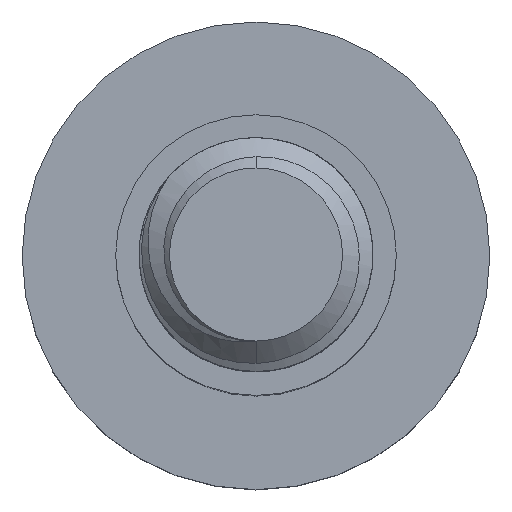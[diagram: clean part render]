
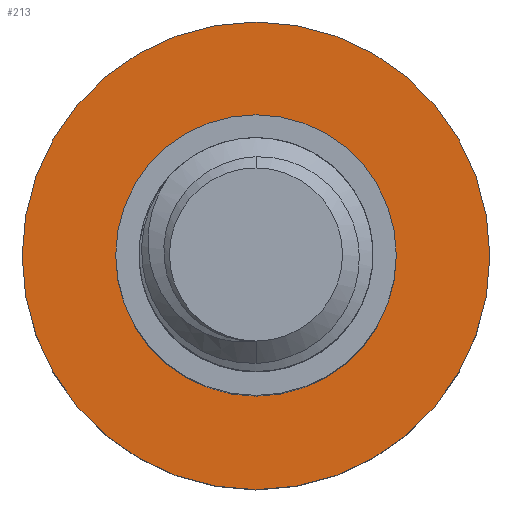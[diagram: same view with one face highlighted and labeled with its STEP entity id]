
A CAD part, top view. The second image highlights one B-rep face of the part: STEP entity #213.
In plain terms, the highlighted planar face has unit normal (0, 0, 1).
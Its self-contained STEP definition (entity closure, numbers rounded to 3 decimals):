
#101 = CIRCLE ( 'NONE', #1266, 10. ) ;
#213 = ADVANCED_FACE ( 'NONE', ( #1810, #1829 ), #2102, .F. ) ;
#241 = CARTESIAN_POINT ( 'NONE',  ( 0., 0., -18. ) ) ;
#508 = DIRECTION ( 'NONE',  ( 0., 0., -1. ) ) ;
#874 = ORIENTED_EDGE ( 'NONE', *, *, #1895, .F. ) ;
#1266 = AXIS2_PLACEMENT_3D ( 'NONE', #241, #508, #1668 ) ;
#1289 = CARTESIAN_POINT ( 'NONE',  ( 0., 0., -18. ) ) ;
#1300 = EDGE_CURVE ( 'NONE', #2465, #3493, #3540, .T. ) ;
#1375 = CARTESIAN_POINT ( 'NONE',  ( -6., 0., -18. ) ) ;
#1440 = CARTESIAN_POINT ( 'NONE',  ( 0., 0., -18. ) ) ;
#1647 = DIRECTION ( 'NONE',  ( 0., 0., -1. ) ) ;
#1668 = DIRECTION ( 'NONE',  ( -1., 0., 0. ) ) ;
#1700 = AXIS2_PLACEMENT_3D ( 'NONE', #1440, #1647, #3357 ) ;
#1719 = CARTESIAN_POINT ( 'NONE',  ( -10., 0., -18. ) ) ;
#1810 = FACE_BOUND ( 'NONE', #2395, .T. ) ;
#1820 = CIRCLE ( 'NONE', #3201, 6. ) ;
#1829 = FACE_OUTER_BOUND ( 'NONE', #2727, .T. ) ;
#1895 = EDGE_CURVE ( 'NONE', #2151, #2498, #101, .T. ) ;
#1988 = AXIS2_PLACEMENT_3D ( 'NONE', #3006, #2171, #2433 ) ;
#2084 = DIRECTION ( 'NONE',  ( -1., 0., 0. ) ) ;
#2102 = PLANE ( 'NONE',  #2402 ) ;
#2151 = VERTEX_POINT ( 'NONE', #2639 ) ;
#2171 = DIRECTION ( 'NONE',  ( 0., 0., -1. ) ) ;
#2201 = ORIENTED_EDGE ( 'NONE', *, *, #2312, .F. ) ;
#2312 = EDGE_CURVE ( 'NONE', #2498, #2151, #3542, .T. ) ;
#2319 = CARTESIAN_POINT ( 'NONE',  ( 0., 0., -18. ) ) ;
#2386 = DIRECTION ( 'NONE',  ( 0., 0., -1. ) ) ;
#2395 = EDGE_LOOP ( 'NONE', ( #3247, #2977 ) ) ;
#2402 = AXIS2_PLACEMENT_3D ( 'NONE', #2319, #3466, #2084 ) ;
#2433 = DIRECTION ( 'NONE',  ( -1., 0., 0. ) ) ;
#2465 = VERTEX_POINT ( 'NONE', #1375 ) ;
#2498 = VERTEX_POINT ( 'NONE', #1719 ) ;
#2583 = CARTESIAN_POINT ( 'NONE',  ( 6., 0., -18. ) ) ;
#2639 = CARTESIAN_POINT ( 'NONE',  ( 10., 0., -18. ) ) ;
#2727 = EDGE_LOOP ( 'NONE', ( #874, #2201 ) ) ;
#2977 = ORIENTED_EDGE ( 'NONE', *, *, #3221, .T. ) ;
#3006 = CARTESIAN_POINT ( 'NONE',  ( 0., 0., -18. ) ) ;
#3042 = DIRECTION ( 'NONE',  ( -1., 0., 0. ) ) ;
#3201 = AXIS2_PLACEMENT_3D ( 'NONE', #1289, #2386, #3042 ) ;
#3221 = EDGE_CURVE ( 'NONE', #3493, #2465, #1820, .T. ) ;
#3247 = ORIENTED_EDGE ( 'NONE', *, *, #1300, .T. ) ;
#3357 = DIRECTION ( 'NONE',  ( -1., 0., 0. ) ) ;
#3466 = DIRECTION ( 'NONE',  ( 0., 0., -1. ) ) ;
#3493 = VERTEX_POINT ( 'NONE', #2583 ) ;
#3540 = CIRCLE ( 'NONE', #1700, 6. ) ;
#3542 = CIRCLE ( 'NONE', #1988, 10. ) ;
